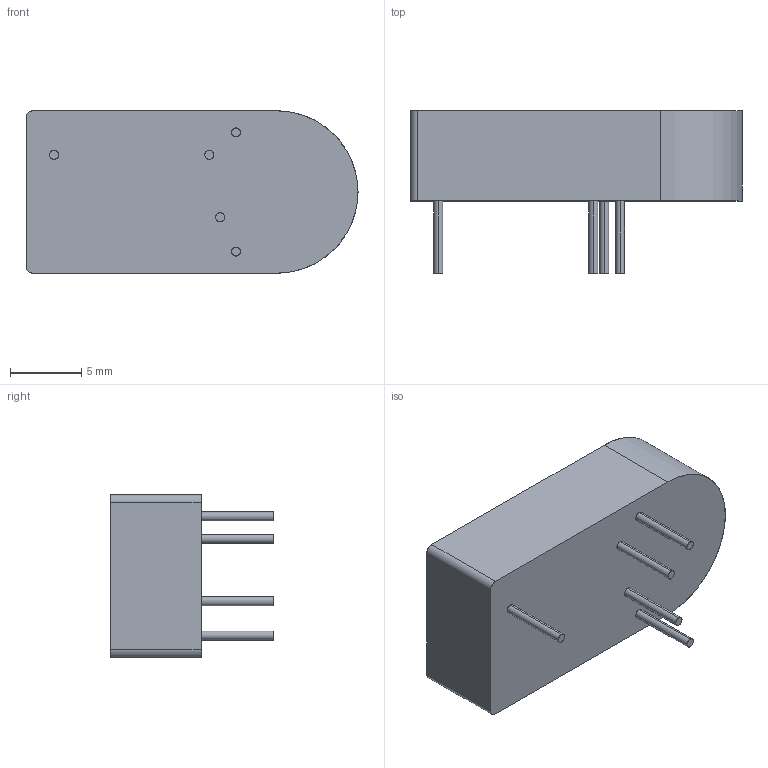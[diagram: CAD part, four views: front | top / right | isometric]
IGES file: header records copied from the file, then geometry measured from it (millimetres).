
Start section: SolidWorks IGES file using analytic representation for surfaces
Global section: file name: C:\Users\asmith\Desktop\~For Darol\Checked .igs Files\A-Series\A01-20.IGS; native system: SolidWorks 2017; preprocessor: SolidWorks 2017; author: asmith; date: 171113.105835; units: inch
Bounding box: 23.37 x 11.43 x 11.43 mm (x, y, z)
Surface area: 964.6 mm2 (no closed solid volume)
Topology: 0 solids, 0 shells, 23 faces, 278 edges, 278 vertices
Faces by surface type: revolution 13, bspline 10
